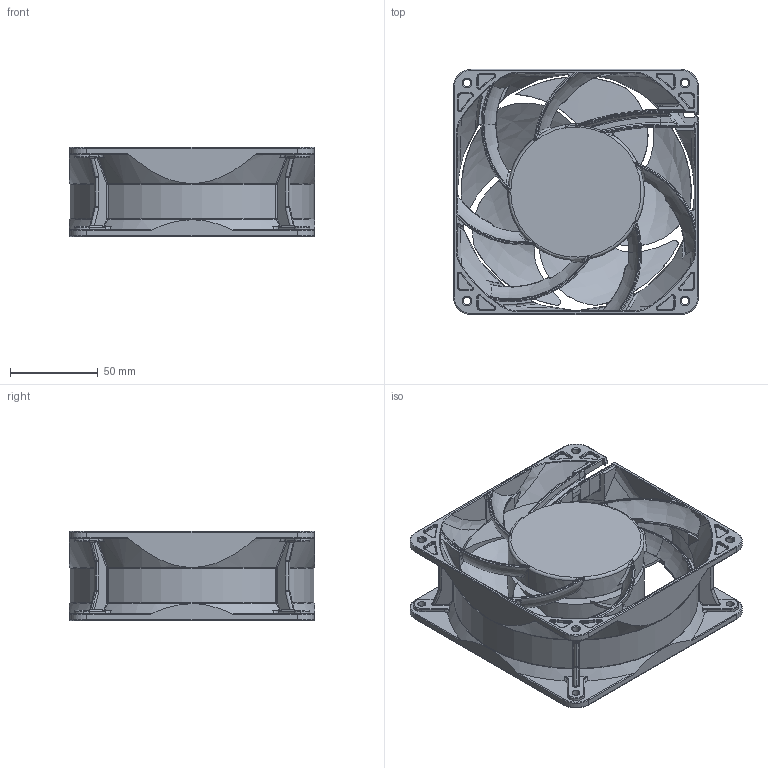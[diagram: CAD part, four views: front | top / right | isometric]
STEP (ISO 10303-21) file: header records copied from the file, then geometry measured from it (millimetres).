
FILE_DESCRIPTION (( 'STEP AP203' ), '1' );
FILE_NAME ('14051WL_LG_RIBLESS.STEP', '2018-01-09T07:29:28', ( '' ), ( '' ), 'SwSTEP 2.0', 'SolidWorks 2017', '' );
FILE_SCHEMA (( 'CONFIG_CONTROL_DESIGN' ));
Length unit declared in the file: millimetre
Products named in the file (1): 14051WL_LG_RIBLESS
Bounding box: 140 x 140 x 51 mm (x, y, z)
Volume: 371286.7 mm3; surface area: 124568.4 mm2
Topology: 2 solids, 2 shells, 1352 faces, 3395 edges, 1996 vertices
Faces by surface type: cylinder 402, bspline 343, torus 319, plane 187, cone 65, sphere 36
Entity records: 54370 total; most frequent: CARTESIAN_POINT 24694, ORIENTED_EDGE 6662, DIRECTION 5865, EDGE_CURVE 3331, AXIS2_PLACEMENT_3D 2540, VERTEX_POINT 1988, CIRCLE 1530, EDGE_LOOP 1387
